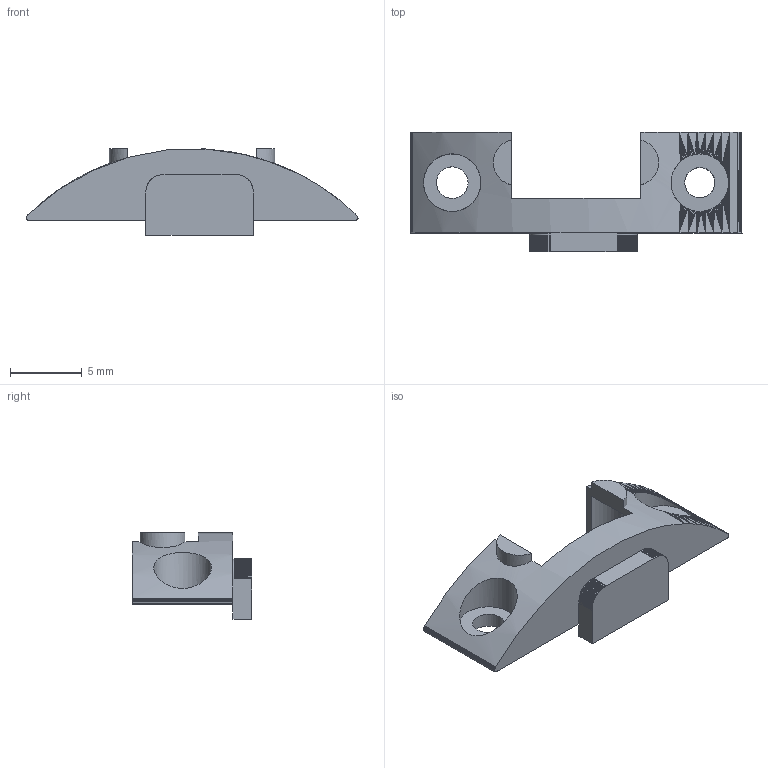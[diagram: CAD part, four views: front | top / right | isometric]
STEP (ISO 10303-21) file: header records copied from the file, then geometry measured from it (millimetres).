
FILE_DESCRIPTION(('Open CASCADE Model'),'2;1');
FILE_NAME('Open CASCADE Shape Model','2026-10-27T00:27:25',('Author'),( 'Open CASCADE'),'Open CASCADE STEP processor 7.9','Open CASCADE 7.9' ,'Unknown');
FILE_SCHEMA(('AUTOMOTIVE_DESIGN { 1 0 10303 214 1 1 1 1 }'));
Length unit declared in the file: millimetre
Products named in the file (1): Open CASCADE STEP translator 7.9 1
Bounding box: 23.09 x 8.3 x 6.04 mm (x, y, z)
Volume: 348.7 mm3; surface area: 559.1 mm2
Topology: 1 solids, 1 shells, 447 faces, 919 edges, 475 vertices
Faces by surface type: plane 261, bspline 175, cylinder 11
Full cylindrical faces by diameter (mm): 2.1 x1, 2.2 x1, 4 x2
Entity records: 30295 total; most frequent: CARTESIAN_POINT 16743, B_SPLINE_CURVE_WITH_KNOTS 2565, ORIENTED_EDGE 1838, PCURVE 1838, DEFINITIONAL_REPRESENTATION 1838, EDGE_CURVE 919, SURFACE_CURVE 915, DIRECTION 737
